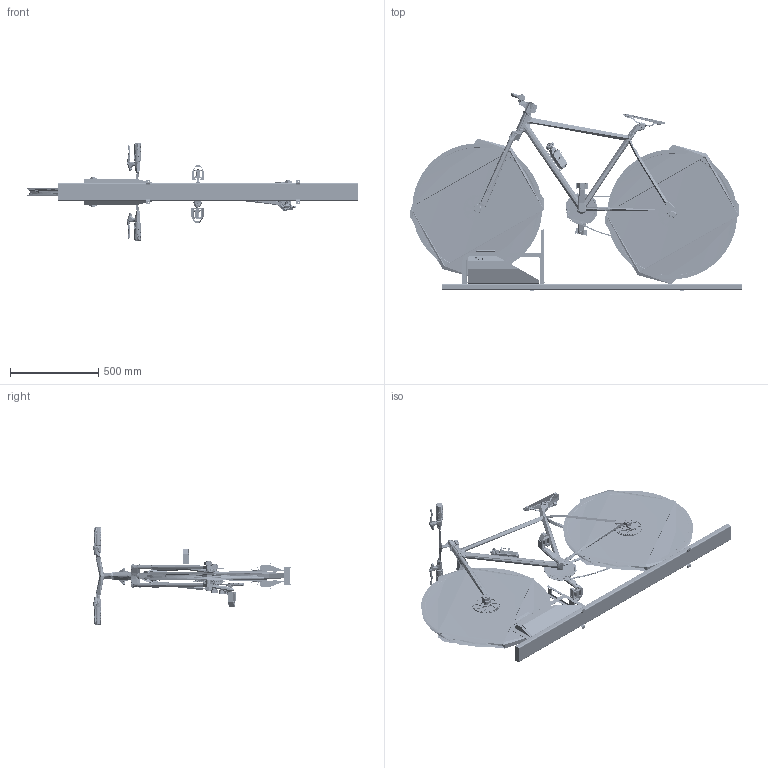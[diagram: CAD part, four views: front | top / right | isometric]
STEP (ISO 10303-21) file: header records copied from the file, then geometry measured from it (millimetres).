
FILE_DESCRIPTION (( 'STEP AP214' ), '1' );
FILE_NAME ('12_mock-up_with_Simple_bike.STEP', '2021-04-22T12:25:37', ( '' ), ( '' ), 'SwSTEP 2.0', 'SolidWorks 2019', '' );
FILE_SCHEMA (( 'AUTOMOTIVE_DESIGN' ));
Length unit declared in the file: millimetre
Products named in the file (4): 12_mock-up_mm_UP_UP.STEP; 12_mock-up_with_Simple_bike; bike.STEP; 12_mock-up_with_Simple_bike.STEP
Assembly tree (3 placements, depth 3):
  12_mock-up_with_Simple_bike
    12_mock-up_with_Simple_bike.STEP
      12_mock-up_mm_UP_UP.STEP
      bike.STEP
Bounding box: 1883.27 x 1122.48 x 556.88 mm (x, y, z)
Topology: 2 solids, 382 shells, 20963 faces, 60579 edges, 41527 vertices
Faces by surface type: cylinder 10547, plane 5397, bspline 4074, cone 734, torus 211
Full cylindrical faces by diameter (mm): 2.687 x2
Entity records: 1146100 total; most frequent: CARTESIAN_POINT 724089, ORIENTED_EDGE 120350, EDGE_CURVE 60363, B_SPLINE_CURVE_WITH_KNOTS 51676, VERTEX_POINT 41525, DIRECTION 36446, EDGE_LOOP 23857, ADVANCED_FACE 20953
